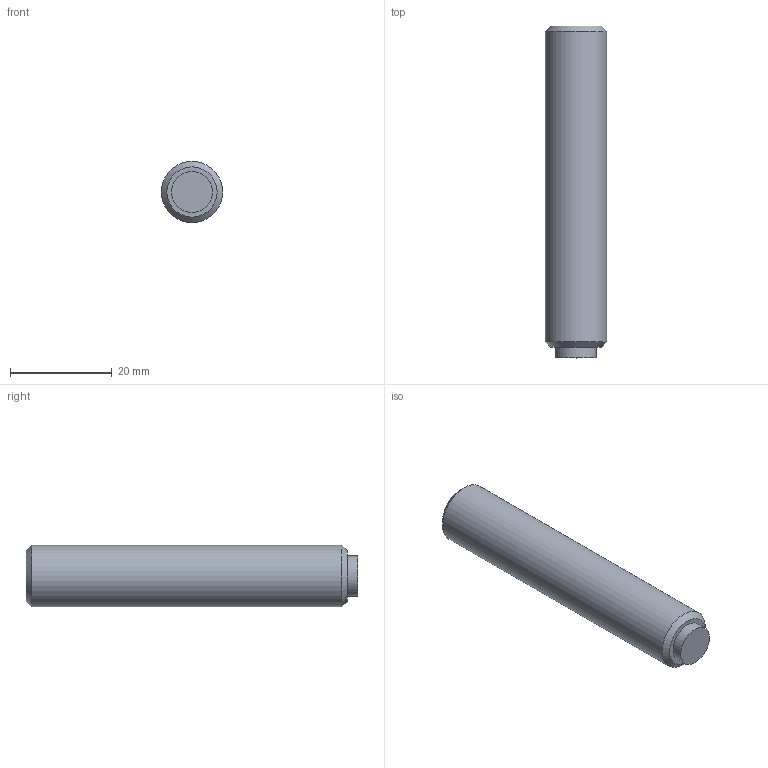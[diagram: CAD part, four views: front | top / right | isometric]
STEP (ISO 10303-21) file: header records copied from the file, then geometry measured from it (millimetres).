
FILE_DESCRIPTION( ( 'STEP AP203' ), '1' );
FILE_NAME( 'C:/Temp/Ganter_Step_05_03_2020/data/3_2/gn913_3/Grub screw GN 913.3-M12-63-KU.stp', '2020-03-13T05:35:42', ( 'License CC BY-ND 4.0' ), ( 'CADENAS' ), ' ', 'PARTsolutions', ' ' );
FILE_SCHEMA( ( 'CONFIG_CONTROL_DESIGN' ) );
Length unit declared in the file: millimetre
Products named in the file (1): _Grub screw GN 913.3-M12-63-KU
Bounding box: 12 x 65.1 x 12 mm (x, y, z)
Volume: 6940.4 mm3; surface area: 2769.9 mm2
Topology: 1 solids, 1 shells, 14 faces, 28 edges, 18 vertices
Faces by surface type: plane 10, cylinder 2, cone 2
Full cylindrical faces by diameter (mm): 8 x1, 12 x1
Entity records: 386 total; most frequent: DIRECTION 60, CARTESIAN_POINT 57, ORIENTED_EDGE 48, EDGE_CURVE 24, AXIS2_PLACEMENT_3D 21, EDGE_LOOP 20, VERTEX_POINT 18, LINE 18
